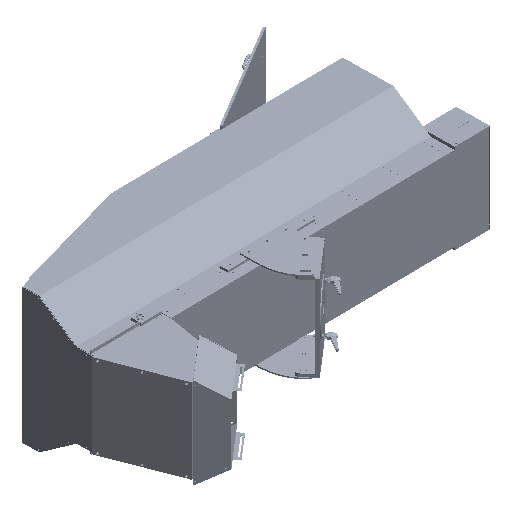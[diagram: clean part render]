
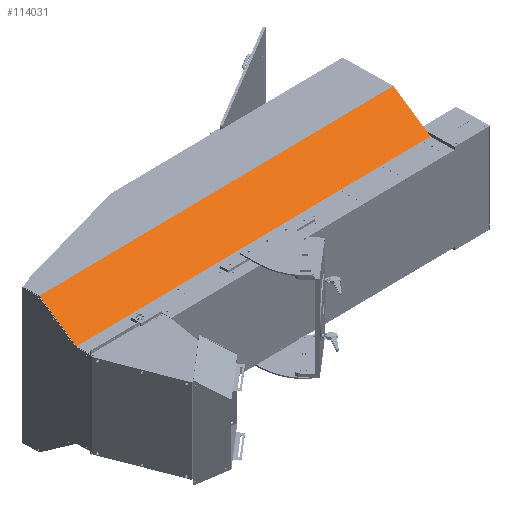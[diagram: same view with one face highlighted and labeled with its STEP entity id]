
A CAD part, isometric view. The second image highlights one B-rep face of the part: STEP entity #114031.
In plain terms, the highlighted planar face has unit normal (0.008, -0.574, 0.819).
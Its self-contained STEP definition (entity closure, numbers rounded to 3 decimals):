
#688 = EDGE_CURVE ( 'NONE', #238318, #102696, #60163, .T. ) ;
#20428 = VERTEX_POINT ( 'NONE', #50527 ) ;
#31860 = EDGE_CURVE ( 'NONE', #113815, #102696, #149468, .T. ) ;
#50527 = CARTESIAN_POINT ( 'NONE',  ( -158.451, 32.983, 936.1 ) ) ;
#59882 = LINE ( 'NONE', #224348, #214722 ) ;
#60163 = LINE ( 'NONE', #223335, #81184 ) ;
#60891 = DIRECTION ( 'NONE',  ( 0.011, -0.819, -0.574 ) ) ;
#67108 = CARTESIAN_POINT ( 'NONE',  ( -160.842, 208.629, 1059.1 ) ) ;
#81184 = VECTOR ( 'NONE', #218914, 1000. ) ;
#81889 = FACE_OUTER_BOUND ( 'NONE', #95429, .T. ) ;
#85812 = PLANE ( 'NONE',  #96338 ) ;
#91116 = LINE ( 'NONE', #67108, #111723 ) ;
#95429 = EDGE_LOOP ( 'NONE', ( #251403, #109868, #168471, #241666 ) ) ;
#96338 = AXIS2_PLACEMENT_3D ( 'NONE', #125965, #206227, #147303 ) ;
#102696 = VERTEX_POINT ( 'NONE', #119826 ) ;
#105240 = CARTESIAN_POINT ( 'NONE',  ( 1561.39, 56.396, 936.1 ) ) ;
#109868 = ORIENTED_EDGE ( 'NONE', *, *, #31860, .F. ) ;
#111723 = VECTOR ( 'NONE', #60891, 1000. ) ;
#113815 = VERTEX_POINT ( 'NONE', #227947 ) ;
#114031 = ADVANCED_FACE ( 'NONE', ( #81889 ), #85812, .T. ) ;
#119826 = CARTESIAN_POINT ( 'NONE',  ( 1558.999, 232.042, 1059.1 ) ) ;
#125965 = CARTESIAN_POINT ( 'NONE',  ( -159.646, 120.806, 997.6 ) ) ;
#147303 = DIRECTION ( 'NONE',  ( -1., -0.014, 0. ) ) ;
#149468 = LINE ( 'NONE', #173448, #152854 ) ;
#152854 = VECTOR ( 'NONE', #253811, 1000. ) ;
#157658 = EDGE_CURVE ( 'NONE', #20428, #238318, #59882, .T. ) ;
#168471 = ORIENTED_EDGE ( 'NONE', *, *, #222489, .T. ) ;
#173448 = CARTESIAN_POINT ( 'NONE',  ( -160.842, 208.629, 1059.1 ) ) ;
#206227 = DIRECTION ( 'NONE',  ( 0.008, -0.574, 0.819 ) ) ;
#214722 = VECTOR ( 'NONE', #255610, 1000. ) ;
#218914 = DIRECTION ( 'NONE',  ( -0.011, 0.819, 0.574 ) ) ;
#222489 = EDGE_CURVE ( 'NONE', #113815, #20428, #91116, .T. ) ;
#223335 = CARTESIAN_POINT ( 'NONE',  ( 1558.999, 232.042, 1059.1 ) ) ;
#224348 = CARTESIAN_POINT ( 'NONE',  ( -158.451, 32.983, 936.1 ) ) ;
#227947 = CARTESIAN_POINT ( 'NONE',  ( -160.842, 208.629, 1059.1 ) ) ;
#238318 = VERTEX_POINT ( 'NONE', #105240 ) ;
#241666 = ORIENTED_EDGE ( 'NONE', *, *, #157658, .T. ) ;
#251403 = ORIENTED_EDGE ( 'NONE', *, *, #688, .T. ) ;
#253811 = DIRECTION ( 'NONE',  ( 1., 0.014, 0. ) ) ;
#255610 = DIRECTION ( 'NONE',  ( 1., 0.014, 0. ) ) ;
